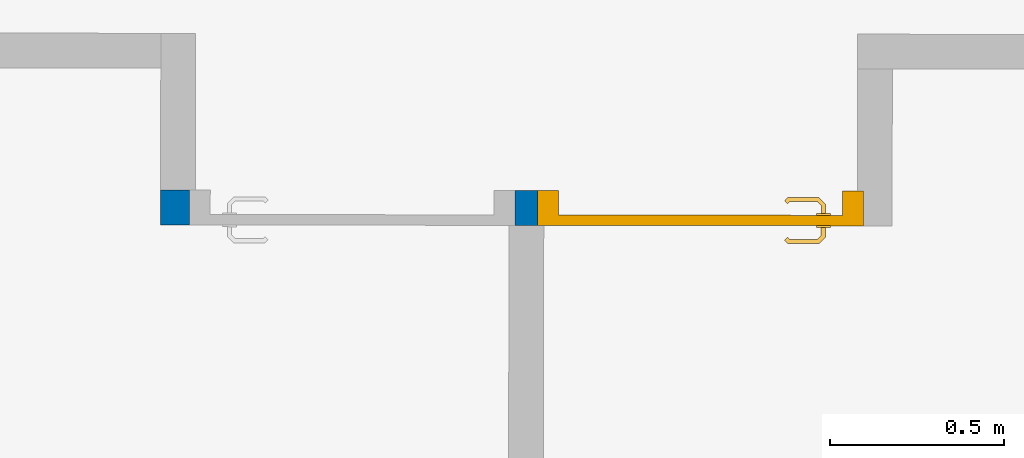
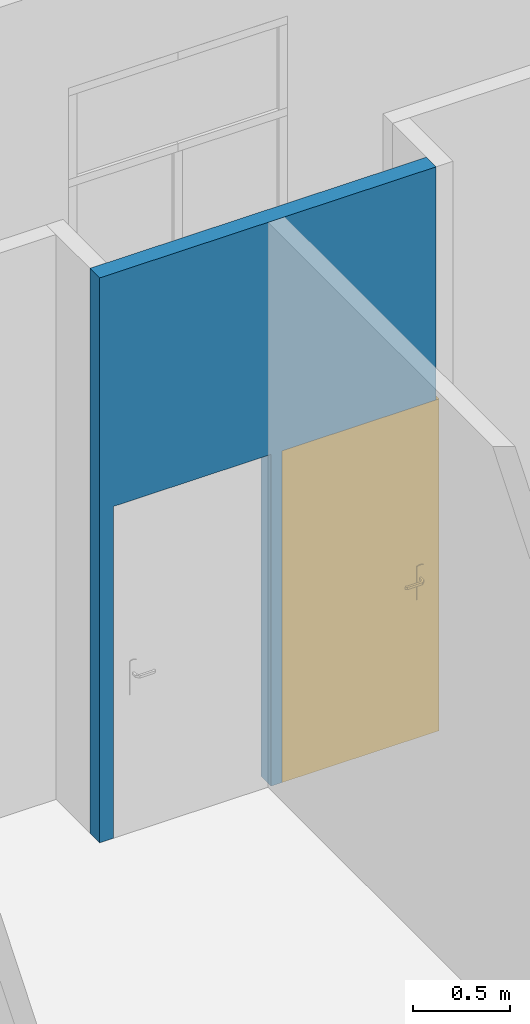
# One storey, part 56 of 101: 1 door, 1 wall, 2 openings.
"""IFC2X3 building model written with IfcOpenShell, lengths in metres."""

from ifc_helpers import new_model, entity, si_unit, converted_unit, derived_unit, direction, frame, frame_2d, origin, place, context, subcontext, project, spatial, rectangle, extrude, faceted_brep, source, transform, mapped, material, material_list, layer, layer_set, layer_usage, type_object, type_shapes, element, fill, save


model = new_model("IFC2X3")

# Units and contexts
model_context = context("Model", 3, precision=1e-05, world=origin(), true_north=direction((6.123233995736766e-17, 1.0)))
body_context = subcontext(model_context, "Body", "Model", "MODEL_VIEW")
ifc_project = project(units=[si_unit("LENGTHUNIT", "METRE"), si_unit("AREAUNIT", "SQUARE_METRE"), converted_unit("PLANEANGLEUNIT", "DEGREE", entity("IfcPlaneAngleMeasure", 0.017453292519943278), si_unit("PLANEANGLEUNIT", "RADIAN"), dimensions=[0, 0, 0, 0, 0, 0, 0]), derived_unit("THERMALTRANSMITTANCEUNIT", [(si_unit("MASSUNIT", "GRAM", prefix="KILO"), 1), (si_unit("THERMODYNAMICTEMPERATUREUNIT", "KELVIN"), -1), (si_unit("TIMEUNIT", "SECOND"), -3)])], contexts=[model_context])

# Site, building, storey
site_placement = place(None, frame((1253.6752467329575, 2072.143113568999, 91.49999999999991), z_axis=(0.0, 0.0, 1.0), x_axis=(0.7237211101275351, 0.6900925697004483, 0.0)))
site = spatial("IfcSite", under=ifc_project, at=site_placement, Name="Surface", CompositionType="ELEMENT")
building_placement = place(site_placement, origin())
building = spatial("IfcBuilding", under=site, at=building_placement, CompositionType="ELEMENT")
storey_placement = place(building_placement, origin())
storey = spatial("IfcBuildingStorey", under=building, at=storey_placement, Name="0- Rdc", CompositionType="ELEMENT", Elevation=-5.764692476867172e-13)

# Wall, openings, door
ifc_material_1 = material(Name="OMD_Béton blanc")
ifc_layer = layer(ifc_material_1, 0.1)
ifc_layer_set = layer_set([ifc_layer], Name="Mur de base:MUR 10")
ifc_layer_usage = layer_usage(ifc_layer_set, "AXIS2", "NEGATIVE", 0.05)
wall_type = type_object("IfcWallType", Name="Mur de base:MUR 10", PredefinedType="STANDARD", material=ifc_layer_set)
wall_placement = place(storey_placement, frame((164.58165461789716, -6.8876795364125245, 0.0), z_axis=(0.0, 0.0, 1.0), x_axis=(0.7228702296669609, -0.6909838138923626, 0.0)))
wall = element("IfcWallStandardCase", 1, at=wall_placement, inside=storey, type_object=wall_type, material=ifc_layer_usage, Name="Mur de base:MUR 10", ObjectType="Mur de base:MUR 10", context=body_context, shape_type="SweptSolid", body=[
    extrude(rectangle(XDim=2.00000000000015, YDim=0.10000000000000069, at=frame_2d((1.000000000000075, -3.635980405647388e-15), x_axis=(-1.0, 0.0))), origin(), (0.0, 0.0, 1.0), 3.5499999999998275),
])
opening_1_placement = place(wall_placement, frame((2.017500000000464, 0.050000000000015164, 0.0)))
opening_1 = element("IfcOpeningElement", 2, at=opening_1_placement, cuts=wall, Name="OMD_Porte 1V tunnel:80x204:1", ObjectType="Opening", context=body_context, shape_type="SweptSolid", body=[
    extrude(rectangle(XDim=2.0850000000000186, YDim=0.9349999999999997, at=frame_2d((1.0425000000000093, 0.46750000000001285), x_axis=(1.0, 0.0))), frame((0.0, 0.0, 0.0), z_axis=(0.0, -1.0, 0.0), x_axis=(0.0, 0.0, 1.0)), (0.0, 0.0, 1.0), 0.1),
])
opening_2_placement = place(wall_placement, frame((1.0175000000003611, 0.050000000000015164, 0.0)))
element("IfcOpeningElement", 3, at=opening_2_placement, cuts=wall, Name="OMD_Porte 1V tunnel:80x204:1", ObjectType="Opening", context=body_context, shape_type="SweptSolid", body=[
    extrude(rectangle(XDim=2.0850000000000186, YDim=0.9349999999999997, at=frame_2d((1.0425000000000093, 0.46749999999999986), x_axis=(1.0, 0.0))), frame((0.0, 0.0, 0.0), z_axis=(0.0, -1.0, 0.0), x_axis=(0.0, 0.0, 1.0)), (0.0, 0.0, 1.0), 0.1),
])
ifc_material_2 = material(Name="Porte - Poignée")
ifc_material_3 = material(Name="OMD_Peinture mur")
ifc_material_4 = material(Name="OMD_Bois")
ifc_material_list = material_list([ifc_material_2, ifc_material_3, ifc_material_4])
door_style = type_object("IfcDoorStyle", Name="OMD_Porte 1V tunnel:80x204", ConstructionType="NOTDEFINED", OperationType="NOTDEFINED", ParameterTakesPrecedence=False, Sizeable=False, material=ifc_material_list)
shared_shape = source(origin(), body_context, "Body", "Brep", [
    faceted_brep([(0.8220252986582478, 0.03500000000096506, 1.0077804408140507), (0.8179747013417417, 0.03500000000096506, 1.007780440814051), (0.8139999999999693, 0.03500000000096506, 1.00699999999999), (0.8139999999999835, 0.03500000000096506, 0.9930000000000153), (0.8179747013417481, 0.03500000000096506, 0.9922195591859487), (0.8220252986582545, 0.03500000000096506, 0.9922195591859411), (0.8260000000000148, 0.03500000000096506, 0.9929999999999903), (0.826000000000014, 0.03500000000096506, 1.006999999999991), (0.8139999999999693, 0.05748520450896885, 1.00699999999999), (0.8139999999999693, 0.05748520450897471, 0.9930000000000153), (0.8179747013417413, 0.059131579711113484, 1.007780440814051), (0.8220252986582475, 0.060809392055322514, 1.0077804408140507), (0.8058389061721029, 0.07699578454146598, 1.0077804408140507), (0.8041610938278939, 0.07294518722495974, 1.007780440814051), (0.7207931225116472, 0.07294518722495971, 1.0077804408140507), (0.7191153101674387, 0.07699578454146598, 1.0077804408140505), (0.7114510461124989, 0.06933152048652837, 1.0077804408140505), (0.714315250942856, 0.0664673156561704, 1.0077804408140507), (0.8260000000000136, 0.062455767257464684, 1.006999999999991), (0.8260000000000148, 0.062455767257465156, 0.9929999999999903), (0.8220252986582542, 0.06080939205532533, 0.9922195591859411), (0.8179747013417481, 0.05913157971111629, 0.9922195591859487), (0.8041610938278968, 0.07294518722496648, 0.9922195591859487), (0.8058389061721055, 0.07699578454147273, 0.9922195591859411), (0.7191153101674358, 0.07699578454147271, 0.9922195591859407), (0.7207931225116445, 0.07294518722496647, 0.9922195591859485), (0.7143152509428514, 0.06646731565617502, 0.9922195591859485), (0.7114510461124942, 0.06933152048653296, 0.9922195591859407), (0.8025147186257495, 0.06897048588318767, 1.00699999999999), (0.8025147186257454, 0.06897048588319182, 0.9930000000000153), (0.8074852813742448, 0.08097048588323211, 1.006999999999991), (0.8074852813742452, 0.08097048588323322, 0.9929999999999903), (0.7624771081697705, 0.06897048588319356, 1.0069999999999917), (0.7224394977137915, 0.06897048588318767, 1.0069999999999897), (0.7224394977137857, 0.0689704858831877, 0.9930000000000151), (0.7624771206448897, 0.06897048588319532, 0.9930000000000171), (0.7624771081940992, 0.07512492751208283, 1.0078781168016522), (0.7573994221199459, 0.08097048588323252, 1.0069999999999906), (0.7174689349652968, 0.08097048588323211, 1.0069999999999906), (0.7675547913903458, 0.08097048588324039, 0.9929999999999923), (0.7174689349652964, 0.08097048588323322, 0.99299999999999), (0.762477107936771, 0.07512492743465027, 0.9921218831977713), (0.7086405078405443, 0.07214205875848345, 1.0069999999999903), (0.7086405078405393, 0.07214205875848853, 0.9929999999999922), (0.7171257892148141, 0.06365677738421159, 0.9930000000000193), (0.71712578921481, 0.06365677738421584, 1.0069999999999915)], [[[0, 1, 2, 3, 4, 5, 6, 7]], [[8, 9, 3, 2]], [[1, 10, 8, 2]], [[1, 0, 11, 12, 13, 10]], [[14, 15, 16, 17]], [[7, 18, 11, 0]], [[18, 7, 6, 19]], [[6, 5, 20, 19]], [[5, 4, 21, 22, 23, 20]], [[24, 25, 26, 27]], [[4, 3, 9, 21]], [[28, 29, 9, 8]], [[8, 10, 13, 28]], [[18, 30, 12, 11]], [[31, 30, 18, 19]], [[19, 20, 23, 31]], [[21, 9, 29, 22]], [[29, 28, 32, 33, 34, 35]], [[36, 32, 13]], [[37, 38, 15]], [[37, 12, 30]], [[36, 12, 37]], [[14, 32, 36]], [[36, 15, 14]], [[28, 13, 32]], [[32, 14, 33]], [[12, 36, 13]], [[15, 36, 37]], [[30, 31, 39, 40, 38, 37]], [[23, 41, 39]], [[24, 39, 41]], [[39, 31, 23]], [[39, 24, 40]], [[22, 35, 41]], [[41, 23, 22]], [[41, 35, 25]], [[35, 22, 29]], [[34, 25, 35]], [[24, 41, 25]], [[17, 16, 42, 43, 27, 26, 44, 45]], [[45, 44, 34, 33]], [[33, 14, 17, 45]], [[15, 38, 42, 16]], [[43, 42, 38, 40]], [[24, 27, 43, 40]], [[34, 44, 26, 25]]]),
    faceted_brep([(0.817974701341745, -0.004999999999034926, 1.007780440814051), (0.8220252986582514, -0.004999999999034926, 1.0077804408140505), (0.8260000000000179, -0.004999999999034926, 1.0069999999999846), (0.8260000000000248, -0.004999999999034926, 0.9929999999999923), (0.8220252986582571, -0.004999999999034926, 0.992219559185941), (0.817974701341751, -0.004999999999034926, 0.9922195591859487), (0.8139999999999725, -0.004999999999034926, 0.9930000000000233), (0.8139999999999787, -0.004999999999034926, 1.006999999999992), (0.8220252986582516, -0.03100457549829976, 1.0077804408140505), (0.8260000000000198, -0.03265095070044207, 1.0069999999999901), (0.8179747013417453, -0.02932676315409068, 1.007780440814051), (0.8042986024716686, -0.04300286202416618, 1.007780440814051), (0.8059764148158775, -0.04705345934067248, 1.0077804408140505), (0.7191424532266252, -0.04705345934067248, 1.0077804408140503), (0.7208202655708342, -0.04300286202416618, 1.0077804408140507), (0.714342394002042, -0.03652499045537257, 1.0077804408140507), (0.7114781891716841, -0.039389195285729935, 1.0077804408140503), (0.813999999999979, -0.02768038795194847, 1.006999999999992), (0.8139999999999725, -0.02768038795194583, 0.9930000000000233), (0.817974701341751, -0.029326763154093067, 0.9922195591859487), (0.8220252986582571, -0.031004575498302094, 0.992219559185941), (0.8059764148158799, -0.0470534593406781, 0.992219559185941), (0.804298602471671, -0.04300286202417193, 0.9922195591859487), (0.7208202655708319, -0.04300286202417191, 0.9922195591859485), (0.7191424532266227, -0.047053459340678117, 0.9922195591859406), (0.71147818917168, -0.03938919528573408, 0.9922195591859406), (0.7143423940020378, -0.036524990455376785, 0.9922195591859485), (0.8260000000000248, -0.032650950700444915, 0.9929999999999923), (0.807622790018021, -0.051028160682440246, 1.0069999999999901), (0.8026522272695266, -0.03902816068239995, 1.006999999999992), (0.8026522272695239, -0.03902816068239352, 0.9930000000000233), (0.8076227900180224, -0.05102816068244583, 0.9929999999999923), (0.762559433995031, -0.0451828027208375, 1.0078781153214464), (0.7676923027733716, -0.05102816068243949, 1.0069999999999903), (0.7174960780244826, -0.05102816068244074, 1.00699999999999), (0.7625594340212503, -0.03902816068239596, 1.0069999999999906), (0.7224666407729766, -0.039028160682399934, 1.0069999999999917), (0.7625594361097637, -0.03902816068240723, 0.9930000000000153), (0.7224666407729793, -0.03902816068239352, 0.9930000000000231), (0.7625594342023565, -0.04518280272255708, 0.9921218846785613), (0.7574265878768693, -0.051028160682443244, 0.9929999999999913), (0.7174960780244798, -0.05102816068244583, 0.9929999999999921), (0.7171529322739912, -0.033714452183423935, 0.9930000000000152), (0.7086676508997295, -0.04219973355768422, 0.9929999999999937), (0.7086676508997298, -0.04219973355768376, 1.0069999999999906), (0.717152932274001, -0.03371445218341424, 1.0069999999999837)], [[[0, 1, 2, 3, 4, 5, 6, 7]], [[2, 1, 8, 9]], [[1, 0, 10, 11, 12, 8]], [[13, 14, 15, 16]], [[0, 7, 17, 10]], [[18, 17, 7, 6]], [[5, 19, 18, 6]], [[5, 4, 20, 21, 22, 19]], [[23, 24, 25, 26]], [[3, 27, 20, 4]], [[9, 27, 3, 2]], [[9, 8, 12, 28]], [[10, 17, 29, 11]], [[30, 29, 17, 18]], [[18, 19, 22, 30]], [[20, 27, 31, 21]], [[28, 31, 27, 9]], [[12, 32, 33]], [[13, 33, 32]], [[33, 28, 12]], [[33, 13, 34]], [[11, 35, 32]], [[32, 12, 11]], [[32, 35, 14]], [[35, 11, 29]], [[36, 14, 35]], [[13, 32, 14]], [[29, 30, 37, 38, 36, 35]], [[39, 37, 22]], [[40, 41, 24]], [[40, 21, 31]], [[39, 21, 40]], [[23, 37, 39]], [[39, 24, 23]], [[30, 22, 37]], [[37, 23, 38]], [[21, 39, 22]], [[24, 39, 40]], [[31, 28, 33, 34, 41, 40]], [[42, 26, 25, 43, 44, 16, 15, 45]], [[13, 16, 44, 34]], [[36, 45, 15, 14]], [[42, 45, 36, 38]], [[38, 23, 26, 42]], [[24, 41, 43, 25]], [[44, 43, 41, 34]]]),
    faceted_brep([(0.8199999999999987, 0.030000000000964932, 0.8646410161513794), (0.8303527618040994, 0.03000000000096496, 0.866003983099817), (0.8399999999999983, 0.030000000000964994, 0.8700000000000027), (0.8399999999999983, 0.030000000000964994, 1.0800000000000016), (0.8303527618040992, 0.03000000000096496, 1.0839960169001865), (0.8199999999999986, 0.030000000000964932, 1.0853589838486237), (0.809647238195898, 0.030000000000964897, 1.0839960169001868), (0.7999999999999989, 0.030000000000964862, 1.0800000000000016), (0.7999999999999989, 0.030000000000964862, 0.8700000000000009), (0.8096472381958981, 0.030000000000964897, 0.8660039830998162), (0.8199999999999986, 0.03500000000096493, 1.0853589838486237), (0.8303527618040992, 0.03500000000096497, 1.0839960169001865), (0.8399999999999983, 0.035000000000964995, 1.0800000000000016), (0.8399999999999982, 0.035000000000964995, 0.8700000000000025), (0.8303527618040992, 0.03500000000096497, 0.866003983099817), (0.8199999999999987, 0.03500000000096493, 0.8646410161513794), (0.8096472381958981, 0.0350000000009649, 0.8660039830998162), (0.7999999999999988, 0.03500000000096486, 0.8700000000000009), (0.7999999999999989, 0.03500000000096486, 1.0800000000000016), (0.809647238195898, 0.0350000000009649, 1.0839960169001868)], [[[0, 1, 2, 3, 4, 5, 6, 7, 8, 9]], [[10, 11, 12, 13, 14, 15, 16, 17, 18, 19]], [[6, 19, 18, 7]], [[5, 10, 19, 6]], [[4, 11, 10, 5]], [[4, 3, 12, 11]], [[12, 3, 2, 13]], [[1, 14, 13, 2]], [[0, 15, 14, 1]], [[9, 16, 15, 0]], [[9, 8, 17, 16]], [[17, 8, 7, 18]]]),
    faceted_brep([(0.819999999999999, -0.004999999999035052, 0.8646410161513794), (0.8303527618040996, -0.0049999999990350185, 0.8660039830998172), (0.8399999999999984, -0.004999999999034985, 0.8700000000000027), (0.8399999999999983, -0.004999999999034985, 1.0800000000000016), (0.8303527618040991, -0.0049999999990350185, 1.0839960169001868), (0.8199999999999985, -0.004999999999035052, 1.0853589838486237), (0.8096472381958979, -0.004999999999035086, 1.0839960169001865), (0.7999999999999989, -0.004999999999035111, 1.0800000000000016), (0.7999999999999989, -0.004999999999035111, 0.8700000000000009), (0.8096472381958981, -0.004999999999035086, 0.8660039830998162), (0.8399999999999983, 0.0, 1.0800000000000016), (0.8399999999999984, 0.0, 0.8700000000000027), (0.8303527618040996, 0.0, 0.8660039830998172), (0.819999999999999, 0.0, 0.8646410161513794), (0.8096472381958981, 0.0, 0.8660039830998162), (0.7999999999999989, 0.0, 0.8700000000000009), (0.7999999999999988, 0.0, 1.0800000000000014), (0.8096472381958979, 0.0, 1.0839960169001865), (0.8199999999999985, 0.0, 1.0853589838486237), (0.8303527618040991, 0.0, 1.0839960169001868)], [[[0, 1, 2, 3, 4, 5, 6, 7, 8, 9]], [[10, 11, 12, 13, 14, 15, 16, 17, 18, 19]], [[1, 12, 11, 2]], [[0, 13, 12, 1]], [[9, 14, 13, 0]], [[9, 8, 15, 14]], [[15, 8, 7, 16]], [[6, 17, 16, 7]], [[5, 18, 17, 6]], [[4, 19, 18, 5]], [[4, 3, 10, 19]], [[10, 3, 2, 11]]]),
    faceted_brep([(0.89, 0.030000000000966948, 0.0), (0.89, 0.0, 0.0), (0.04500000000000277, 0.0, 0.0), (0.04500000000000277, 0.030000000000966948, 0.0), (0.89, 0.030000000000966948, 2.04), (0.89, 0.0, 2.04), (0.04500000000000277, 0.0, 2.04), (0.04500000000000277, 0.030000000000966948, 2.04)], [[[0, 1, 2, 3]], [[4, 5, 1, 0]], [[5, 6, 2, 1]], [[6, 7, 3, 2]], [[7, 4, 0, 3]], [[4, 7, 6, 5]]]),
    faceted_brep([(0.9350000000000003, 0.0, 0.0), (0.89, 0.0, 0.0), (0.8900000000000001, 0.03000000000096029, 0.0), (0.8750000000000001, 0.030000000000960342, 0.0), (0.8750000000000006, 0.10000000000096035, 0.0), (0.9350000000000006, 0.10000000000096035, 0.0), (0.9350000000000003, 0.0, 2.085), (0.0, 0.0, 2.085), (0.0, 0.0, 0.0), (0.04500000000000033, 0.0, 0.0), (0.04500000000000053, 0.0, 2.04), (0.8899999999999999, 0.0, 2.0399999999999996), (0.89, 0.030000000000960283, 2.0399999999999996), (0.0450000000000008, 0.03000000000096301, 2.0399999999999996), (0.0450000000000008, 0.030000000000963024, 0.0), (0.060000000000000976, 0.030000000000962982, 0.0), (0.060000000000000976, 0.03000000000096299, 2.0249999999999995), (0.8750000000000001, 0.03000000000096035, 2.025), (0.8750000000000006, 0.10000000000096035, 2.0250000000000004), (0.060000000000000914, 0.10000000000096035, 2.025), (0.060000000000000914, 0.10000000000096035, 0.0), (0.0, 0.10000000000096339, 0.0), (0.0, 0.10000000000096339, 2.085), (0.9350000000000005, 0.10000000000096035, 2.085)], [[[0, 1, 2, 3, 4, 5]], [[1, 0, 6, 7, 8, 9, 10, 11]], [[2, 1, 11, 12]], [[3, 2, 12, 13, 14, 15, 16, 17]], [[4, 3, 17, 18]], [[5, 4, 18, 19, 20, 21, 22, 23]], [[0, 5, 23, 6]], [[7, 22, 21, 8]], [[8, 21, 20, 15, 14, 9]], [[13, 10, 9, 14]], [[19, 16, 15, 20]], [[12, 11, 10, 13]], [[18, 17, 16, 19]], [[6, 23, 22, 7]]]),
])
type_shapes(door_style, [shared_shape])
door_placement = place(opening_1_placement, frame((-0.9350000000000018, -0.10000000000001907, 0.0)))
door = element("IfcDoor", 4, at=door_placement, inside=storey, type_object=door_style, material=ifc_material_list, Name="OMD_Porte 1V tunnel:80x204", ObjectType="OMD_Porte 1V tunnel:80x204", OverallHeight=2.0850000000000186, OverallWidth=0.9349999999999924, context=body_context, shape_type="MappedRepresentation", body=[
    mapped(shared_shape, transform((0.0, 0.0, 0.0), scale=1.0)),
])
fill(opening_1, door)

save(model, "model.ifc")
